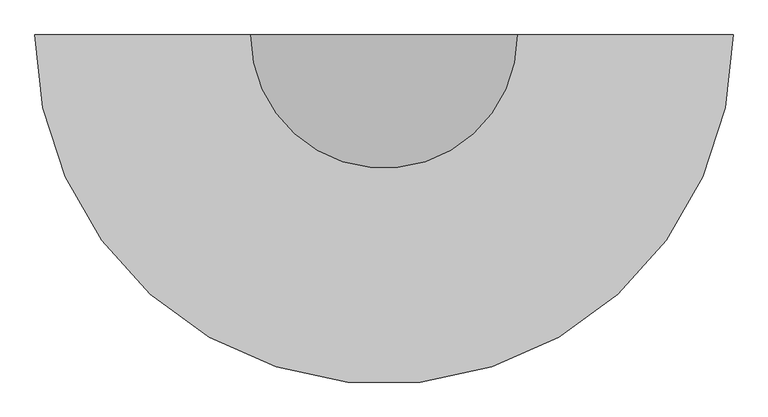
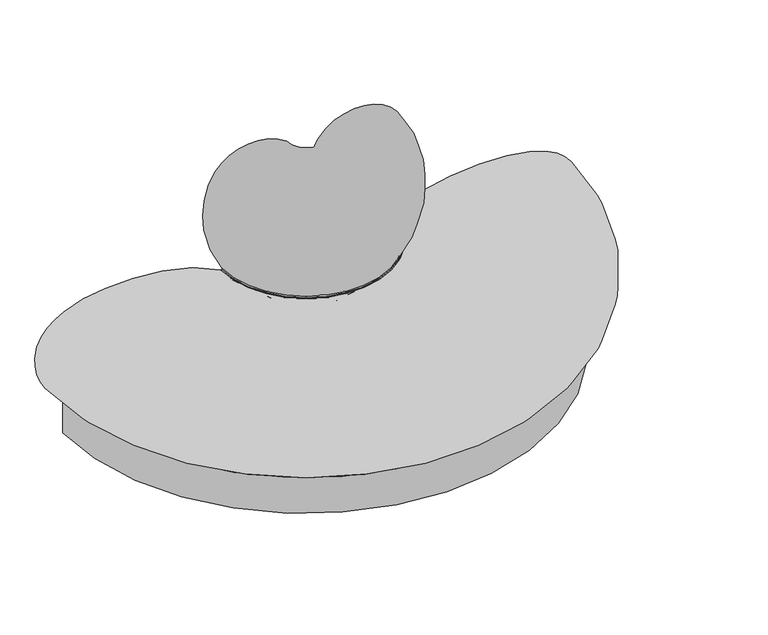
"""IFC4 building model written with IfcOpenShell, lengths in millimetres: furniture geometry, Memo_Candy_EndUnit : Memo_Candy_EndUnit."""

from ifc_helpers import new_model, si_unit, point, frame, frame_2d, origin, origin_with_axes, place, context, project, spatial, polyline, circle_curve, ellipse_curve, trimmed, segment, composite_curve, outline, extrude, source, transform, mapped, element, save
from ifc_brep_helpers import plane_surface, revolved_surface, spline_curve, advanced_brep


def furniture_12de517c(model_context):
    return source(origin(), model_context, "Body", "SolidModel", [
        advanced_brep(
        [(0.0, 400.05, 130.8862), (-267.7787947, 400.05, 382.770933), (-267.3921742, 400.05, 386.6180112), (0.0, 400.05, 562.6862), (267.3921742, 400.05, 386.6180112), (267.7787947, 400.05, 382.770933)],
        [
            (0, 1),
            (1, 2, circle_curve(frame((-270.0914432, 400.05, 384.9463138), z_axis=(0.0, -1.0, 0.0), x_axis=(1.0, 0.0, 0.0)), 3.175)),
            (2, 3, spline_curve(3, [(-267.3921742, 400.05, 386.6180112), (-300.061776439, 400.05, 439.369212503), (-318.416186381, 400.05, 487.129586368), (-335.792979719, 400.05, 603.825037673), (-325.653456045, 400.05, 674.263665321), (-252.675049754, 400.05, 768.908542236), (-185.938337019, 400.05, 789.248467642), (-59.638253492, 400.05, 756.110862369), (0.0, 400.05, 709.516352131), (0.0, 400.05, 562.6862)], [4, 2, 2, 2, 4], [0.0, 0.4185569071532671, 0.9855194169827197, 1.5950308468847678, 2.146168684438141])),
            (3, 0),
            (3, 4, spline_curve(3, [(0.0, 400.05, 562.6862), (0.0, 400.05, 709.516352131), (59.638253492, 400.05, 756.110862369), (185.938337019, 400.05, 789.248467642), (252.675049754, 400.05, 768.908542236), (325.653456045, 400.05, 674.263665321), (335.792979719, 400.05, 603.825037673), (318.416186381, 400.05, 487.129586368), (300.061776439, 400.05, 439.369212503), (267.3921742, 400.05, 386.6180112)], [4, 2, 2, 2, 4], [0.0, 0.5511378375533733, 1.1606492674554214, 1.727611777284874, 2.146168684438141])),
            (4, 5, circle_curve(frame((270.0914432, 400.05, 384.9463138), z_axis=(0.0, -1.0, 0.0), x_axis=(-1.0, 0.0, 0.0)), 3.175)),
            (5, 0),
            (5, 1, circle_curve(frame((0.0, 400.05, 382.770933), z_axis=(0.0, 0.0, -1.0), x_axis=(-1.0, 0.0, 0.0)), 267.7787947)),
            (4, 2, circle_curve(frame((0.0, 400.05, 386.6180112), z_axis=(0.0, 0.0, -1.0), x_axis=(-1.0, 0.0, 0.0)), 267.3921742)),
        ],
        [
            plane_surface(frame((0.0, 400.05, -101.6), z_axis=(0.0, 1.0, 0.0), x_axis=(-1.0, 0.0, 0.0))),
            plane_surface(frame((0.0, 400.05, -101.6), z_axis=(0.0, 1.0, 0.0), x_axis=(1.0, 0.0, 0.0))),
            revolved_surface(polyline([(-267.7787947, 400.05, 382.770933), (0.0, 400.05, 130.8862)]), (0.0, 400.05, -101.6), (0.0, 0.0, -1.0)),
            revolved_surface(trimmed(ellipse_curve(frame((-270.0914432, 400.05, 384.9463138), z_axis=(0.0, 1.0, 0.0), x_axis=(1.0, 0.0, 0.0)), 3.175, 3.175), [point((-267.3921742, 400.05, 386.6180112))], [point((-267.7787947, 400.05, 382.770933))], True, "CARTESIAN"), (0.0, 400.05, -101.6), (0.0, 0.0, -1.0)),
            revolved_surface(spline_curve(3, [(0.0, 400.05, 562.6862), (0.0, 400.05, 709.516352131), (-59.638253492, 400.05, 756.110862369), (-185.938337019, 400.05, 789.248467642), (-252.675049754, 400.05, 768.908542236), (-325.653456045, 400.05, 674.263665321), (-335.792979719, 400.05, 603.825037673), (-318.416186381, 400.05, 487.129586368), (-300.061776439, 400.05, 439.369212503), (-267.3921742, 400.05, 386.6180112)], [4, 2, 2, 2, 4], [0.0, 0.5511378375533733, 1.1606492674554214, 1.727611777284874, 2.146168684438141]), (0.0, 400.05, -101.6), (0.0, 0.0, -1.0)),
        ],
        [
            (0, [[1, 2, 3, 4]]),
            (1, [[5, 6, 7, -4]]),
            (2, [[8, -1, -7]]),
            (3, [[9, -2, -8, -6]]),
            (4, [[-3, -9, -5]]),
        ],
    ),
        advanced_brep(
        [(0.0, 400.05, 130.8862), (-774.7, 400.05, 130.8862), (-273.1770665, 400.05, 383.1727272), (-271.8321879, 400.05, 382.2910487), (-267.7787947, 400.05, 382.770933), (267.7787947, 400.05, 382.770933), (271.8321879, 400.05, 382.2910487), (273.1770665, 400.05, 383.1727272), (774.7, 400.05, 130.8862)],
        [
            (0, 1),
            (1, 2, spline_curve(3, [(-774.7, 400.05, 130.8862), (-846.016025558, 400.05, 170.417318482), (-866.142440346, 400.05, 240.606468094), (-860.025333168, 400.05, 357.685536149), (-820.172244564, 400.05, 393.569418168), (-715.986315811, 400.05, 443.81214514), (-648.994192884, 400.05, 454.422655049), (-464.722171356, 400.05, 449.084914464), (-353.471352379, 400.05, 435.812236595), (-273.1770665, 400.05, 383.1727272)], [4, 2, 2, 2, 4], [0.0, 0.4418974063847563, 1.0001856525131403, 1.637190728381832, 2.2072085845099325])),
            (2, 3),
            (3, 4, circle_curve(frame((-270.0914432, 400.05, 384.9463138), z_axis=(0.0, -1.0, 0.0), x_axis=(1.0, 0.0, 0.0)), 3.175)),
            (4, 0),
            (0, 5),
            (5, 6, circle_curve(frame((270.0914432, 400.05, 384.9463138), z_axis=(0.0, -1.0, 0.0), x_axis=(-1.0, 0.0, 0.0)), 3.175)),
            (6, 7),
            (7, 8, spline_curve(3, [(273.1770665, 400.05, 383.1727272), (353.471352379, 400.05, 435.812236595), (464.722171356, 400.05, 449.084914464), (648.994192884, 400.05, 454.422655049), (715.986315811, 400.05, 443.81214514), (820.172244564, 400.05, 393.569418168), (860.025333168, 400.05, 357.685536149), (866.142440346, 400.05, 240.606468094), (846.016025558, 400.05, 170.417318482), (774.7, 400.05, 130.8862)], [4, 2, 2, 2, 4], [0.0, 0.5700178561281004, 1.2070229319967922, 1.7653111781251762, 2.2072085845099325])),
            (8, 0),
            (8, 1, circle_curve(frame((0.0, 400.05, 130.8862), z_axis=(0.0, 0.0, -1.0), x_axis=(-1.0, 0.0, 0.0)), 774.7)),
            (7, 2, circle_curve(frame((0.0, 400.05, 383.1727272), z_axis=(0.0, 0.0, -1.0), x_axis=(-1.0, 0.0, 0.0)), 273.1770665)),
            (6, 3, circle_curve(frame((0.0, 400.05, 382.2910487), z_axis=(0.0, 0.0, -1.0), x_axis=(-1.0, 0.0, 0.0)), 271.8321879)),
            (5, 4, circle_curve(frame((0.0, 400.05, 382.770933), z_axis=(0.0, 0.0, -1.0), x_axis=(-1.0, 0.0, 0.0)), 267.7787947)),
        ],
        [
            plane_surface(frame((0.0, 400.05, -173.9138), z_axis=(0.0, 1.0, 0.0), x_axis=(-1.0, 0.0, 0.0))),
            plane_surface(frame((0.0, 400.05, -173.9138), z_axis=(0.0, 1.0, 0.0), x_axis=(1.0, 0.0, 0.0))),
            plane_surface(frame((0.0, 400.05, 130.8862), z_axis=(0.0, 0.0, -1.0), x_axis=(-1.0, 0.0, 0.0))),
            revolved_surface(spline_curve(3, [(-273.1770665, 400.05, 383.1727272), (-353.471352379, 400.05, 435.812236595), (-464.722171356, 400.05, 449.084914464), (-648.994192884, 400.05, 454.422655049), (-715.986315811, 400.05, 443.81214514), (-820.172244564, 400.05, 393.569418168), (-860.025333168, 400.05, 357.685536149), (-866.142440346, 400.05, 240.606468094), (-846.016025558, 400.05, 170.417318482), (-774.7, 400.05, 130.8862)], [4, 2, 2, 2, 4], [0.0, 0.5700178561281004, 1.2070229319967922, 1.7653111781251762, 2.2072085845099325]), (0.0, 400.05, -173.9138), (0.0, 0.0, -1.0)),
            revolved_surface(polyline([(-271.8321879, 400.05, 382.2910487), (-273.1770665, 400.05, 383.1727272)]), (0.0, 400.05, -173.9138), (0.0, 0.0, -1.0)),
            revolved_surface(trimmed(ellipse_curve(frame((-270.0914432, 400.05, 384.9463138), z_axis=(0.0, 1.0, 0.0), x_axis=(1.0, 0.0, 0.0)), 3.175, 3.175), [point((-267.7787947, 400.05, 382.770933))], [point((-271.8321879, 400.05, 382.2910487))], True, "CARTESIAN"), (0.0, 400.05, -173.9138), (0.0, 0.0, -1.0)),
            revolved_surface(polyline([(0.0, 400.05, 130.8862), (-267.7787947, 400.05, 382.770933)]), (0.0, 400.05, -173.9138), (0.0, 0.0, -1.0)),
        ],
        [
            (0, [[1, 2, 3, 4, 5]]),
            (1, [[6, 7, 8, 9, 10]]),
            (2, [[11, -1, -10]]),
            (3, [[12, -2, -11, -9]]),
            (4, [[13, -3, -12, -8]]),
            (5, [[14, -4, -13, -7]]),
            (6, [[-5, -14, -6]]),
        ],
    ),
        extrude(outline(composite_curve([segment(trimmed(circle_curve(frame_2d((-721.6405528, 342.9)), 14.2875), [point((-707.3530528, 342.9))], [point((-735.9280528, 342.9))], False, "CARTESIAN"), True, "CONTINUOUS"), segment(trimmed(circle_curve(frame_2d((-721.6405528, 342.9)), 14.2875), [point((-735.9280528, 342.9))], [point((-707.3530528, 342.9))], False, "CARTESIAN"), True, "CONTINUOUS")], self_intersect=False)), origin_with_axes(), (0.0, 0.0, 1.0), 10.2362),
        extrude(outline(composite_curve([segment(trimmed(circle_curve(frame_2d((-511.8745989, -111.8245989)), 14.2875), [point((-497.5870989, -111.8245989))], [point((-526.1620989, -111.8245989))], False, "CARTESIAN"), True, "CONTINUOUS"), segment(trimmed(circle_curve(frame_2d((-511.8745989, -111.8245989)), 14.2875), [point((-526.1620989, -111.8245989))], [point((-497.5870989, -111.8245989))], False, "CARTESIAN"), True, "CONTINUOUS")], self_intersect=False)), origin_with_axes(), (0.0, 0.0, 1.0), 10.2362),
        extrude(outline(composite_curve([segment(trimmed(circle_curve(frame_2d((0.0, -323.85)), 14.2875), [point((14.2875, -323.85))], [point((-14.2875, -323.85))], False, "CARTESIAN"), True, "CONTINUOUS"), segment(trimmed(circle_curve(frame_2d((0.0, -323.85)), 14.2875), [point((-14.2875, -323.85))], [point((14.2875, -323.85))], False, "CARTESIAN"), True, "CONTINUOUS")], self_intersect=False)), origin_with_axes(), (0.0, 0.0, 1.0), 10.2362),
        extrude(outline(composite_curve([segment(trimmed(circle_curve(frame_2d((0.0, 342.9)), 14.2875), [point((14.2875, 342.9))], [point((-14.2875, 342.9))], False, "CARTESIAN"), True, "CONTINUOUS"), segment(trimmed(circle_curve(frame_2d((0.0, 342.9)), 14.2875), [point((-14.2875, 342.9))], [point((14.2875, 342.9))], False, "CARTESIAN"), True, "CONTINUOUS")], self_intersect=False)), origin_with_axes(), (0.0, 0.0, 1.0), 10.2362),
        extrude(outline(composite_curve([segment(trimmed(circle_curve(frame_2d((721.6405528, 342.9)), 14.2875), [point((707.3530528, 342.9))], [point((735.9280528, 342.9))], False, "CARTESIAN"), True, "CONTINUOUS"), segment(trimmed(circle_curve(frame_2d((721.6405528, 342.9)), 14.2875), [point((735.9280528, 342.9))], [point((707.3530528, 342.9))], False, "CARTESIAN"), True, "CONTINUOUS")], self_intersect=False)), origin_with_axes(), (0.0, 0.0, 1.0), 10.2362),
        extrude(outline(composite_curve([segment(trimmed(circle_curve(frame_2d((511.8745989, -111.8245989)), 14.2875), [point((497.5870989, -111.8245989))], [point((526.1620989, -111.8245989))], False, "CARTESIAN"), True, "CONTINUOUS"), segment(trimmed(circle_curve(frame_2d((511.8745989, -111.8245989)), 14.2875), [point((526.1620989, -111.8245989))], [point((497.5870989, -111.8245989))], False, "CARTESIAN"), True, "CONTINUOUS")], self_intersect=False)), origin_with_axes(), (0.0, 0.0, 1.0), 10.2362),
        extrude(outline(composite_curve([segment(trimmed(circle_curve(frame_2d((0.0, 400.05)), 774.7), [point((774.7, 400.05))], [point((-774.7, 400.05))], False, "CARTESIAN"), True, "CONTINUOUS"), segment(polyline([(-774.7, 400.05), (774.7, 400.05)]), True, "CONTINUOUS")], self_intersect=False)), frame((0.0, 0.0, 10.2362), z_axis=(0.0, 0.0, 1.0), x_axis=(1.0, 0.0, 0.0)), (0.0, 0.0, 1.0), 120.65),
    ])


if __name__ == "__main__":
    model = new_model("IFC4")
    model_context = context("Model", 3, world=origin())
    ifc_project = project(units=[si_unit("LENGTHUNIT", "METRE", prefix="MILLI")], contexts=[model_context])
    site = spatial("IfcSite", under=ifc_project)
    building = spatial("IfcBuilding", under=site)
    placement = place(None, origin())
    furniture_shape = furniture_12de517c(model_context)
    element("IfcFurniture", 1, ObjectType="Memo_Candy_EndUnit : Memo_Candy_EndUnit", at=placement, inside=building, context=model_context, shape_type="MappedRepresentation", body=[
        mapped(furniture_shape, transform((0.0, 0.0, 0.0), x_axis=(1.0, 0.0, 0.0), y_axis=(0.0, 1.0, 0.0), z_axis=(0.0, 0.0, 1.0))),
    ])
    save(model, "model.ifc")
